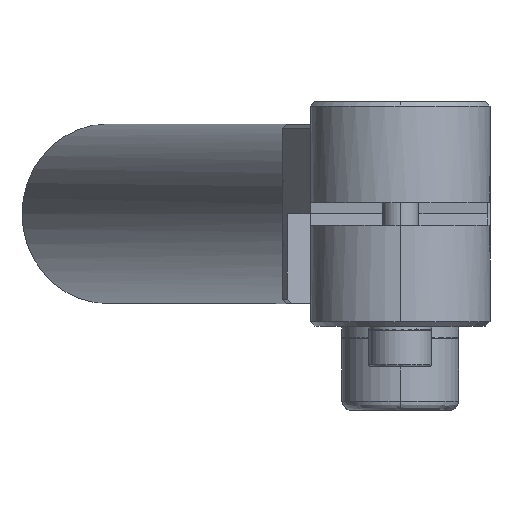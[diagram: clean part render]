
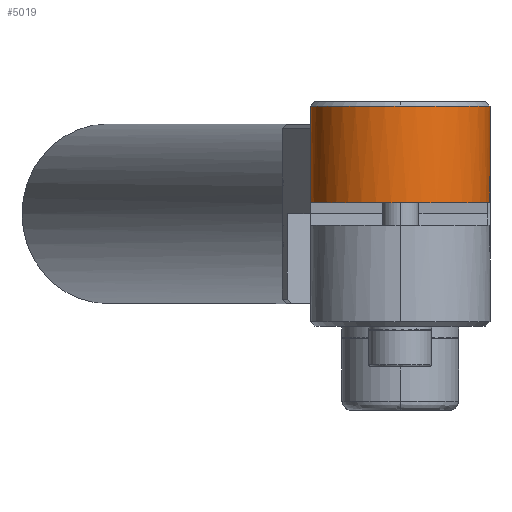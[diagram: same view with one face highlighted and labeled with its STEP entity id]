
A CAD part, left-side view. The second image highlights one B-rep face of the part: STEP entity #5019.
In plain terms, the highlighted cylindrical face has radius 10 mm (diameter 20 mm), a partial arc.
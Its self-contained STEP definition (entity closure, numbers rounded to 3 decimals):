
#706 = ORIENTED_EDGE ( 'NONE', *, *, #26654, .F. ) ;
#779 = CARTESIAN_POINT ( 'NONE',  ( 1.301, 18.461, 0. ) ) ;
#1475 = LINE ( 'NONE', #779, #13405 ) ;
#1863 = CARTESIAN_POINT ( 'NONE',  ( 1.063, 38.461, 3.866 ) ) ;
#2822 = CARTESIAN_POINT ( 'NONE',  ( 0.695, 18.477, 3.822 ) ) ;
#3038 = DIRECTION ( 'NONE',  ( 0., 0., -1. ) ) ;
#3061 = DIRECTION ( 'NONE',  ( 0., 0., 1. ) ) ;
#3308 = EDGE_CURVE ( 'NONE', #12350, #28680, #1475, .T. ) ;
#3827 = EDGE_CURVE ( 'NONE', #4880, #15705, #13525, .T. ) ;
#4060 = VERTEX_POINT ( 'NONE', #9437 ) ;
#4762 = AXIS2_PLACEMENT_3D ( 'NONE', #8072, #23810, #10302 ) ;
#4880 = VERTEX_POINT ( 'NONE', #15504 ) ;
#5019 = ADVANCED_FACE ( 'NONE', ( #7786 ), #22921, .T. ) ;
#5088 = CARTESIAN_POINT ( 'NONE',  ( 0.123, 18.53, 1.911 ) ) ;
#5154 = VECTOR ( 'NONE', #8079, 1000. ) ;
#5165 = CARTESIAN_POINT ( 'NONE',  ( 1.301, 28.461, 12. ) ) ;
#6223 = VERTEX_POINT ( 'NONE', #13953 ) ;
#7438 = DIRECTION ( 'NONE',  ( -1., 0., 0. ) ) ;
#7757 = CIRCLE ( 'NONE', #4762, 10. ) ;
#7786 = FACE_OUTER_BOUND ( 'NONE', #23550, .T. ) ;
#8072 = CARTESIAN_POINT ( 'NONE',  ( 1.301, 28.461, 12. ) ) ;
#8079 = DIRECTION ( 'NONE',  ( 0., 0., 1. ) ) ;
#9437 = CARTESIAN_POINT ( 'NONE',  ( 0.04, 18.541, 1.25 ) ) ;
#10302 = DIRECTION ( 'NONE',  ( -1., 0., 0. ) ) ;
#10831 = ORIENTED_EDGE ( 'NONE', *, *, #21545, .F. ) ;
#10950 = CARTESIAN_POINT ( 'NONE',  ( 1.301, 18.461, 12. ) ) ;
#11249 = EDGE_CURVE ( 'NONE', #4060, #4880, #12181, .T. ) ;
#11717 = EDGE_CURVE ( 'NONE', #22071, #6223, #14236, .T. ) ;
#12181 = CIRCLE ( 'NONE', #19185, 10. ) ;
#12350 = VERTEX_POINT ( 'NONE', #17381 ) ;
#13040 = CARTESIAN_POINT ( 'NONE',  ( 0.56, 38.434, 2.324 ) ) ;
#13405 = VECTOR ( 'NONE', #3061, 1000. ) ;
#13525 = B_SPLINE_CURVE_WITH_KNOTS ( 'NONE', 3,
 ( #26376, #28834, #13040, #15331, #1863, #17614 ),
 .UNSPECIFIED., .F., .F.,
 ( 4, 2, 4 ),
 ( 0., 0.002, 0.003 ),
 .UNSPECIFIED. ) ;
#13953 = CARTESIAN_POINT ( 'NONE',  ( -8.699, 28.461, 12. ) ) ;
#13989 = CARTESIAN_POINT ( 'NONE',  ( 1.301, 18.461, 5.009 ) ) ;
#14236 = CIRCLE ( 'NONE', #14281, 10. ) ;
#14281 = AXIS2_PLACEMENT_3D ( 'NONE', #5165, #20910, #7438 ) ;
#14305 = DIRECTION ( 'NONE',  ( 0., 1., 0. ) ) ;
#14581 = B_SPLINE_CURVE_WITH_KNOTS ( 'NONE', 3,
 ( #13989, #16284, #2822, #18556, #5088, #20841 ),
 .UNSPECIFIED., .F., .F.,
 ( 4, 2, 4 ),
 ( 0., 0.002, 0.004 ),
 .UNSPECIFIED. ) ;
#15331 = CARTESIAN_POINT ( 'NONE',  ( 0.867, 38.453, 3.36 ) ) ;
#15504 = CARTESIAN_POINT ( 'NONE',  ( 0.38, 38.418, 1.25 ) ) ;
#15705 = VERTEX_POINT ( 'NONE', #23756 ) ;
#16284 = CARTESIAN_POINT ( 'NONE',  ( 0.97, 18.461, 4.431 ) ) ;
#16498 = CARTESIAN_POINT ( 'NONE',  ( 1.301, 28.461, 1.25 ) ) ;
#17381 = CARTESIAN_POINT ( 'NONE',  ( 1.301, 18.461, 5.009 ) ) ;
#17614 = CARTESIAN_POINT ( 'NONE',  ( 1.301, 38.461, 4.359 ) ) ;
#17645 = ORIENTED_EDGE ( 'NONE', *, *, #3827, .F. ) ;
#18556 = CARTESIAN_POINT ( 'NONE',  ( 0.272, 18.512, 2.562 ) ) ;
#18767 = DIRECTION ( 'NONE',  ( 0., 1., 0. ) ) ;
#19185 = AXIS2_PLACEMENT_3D ( 'NONE', #16498, #3038, #18767 ) ;
#20268 = EDGE_CURVE ( 'NONE', #12350, #4060, #14581, .T. ) ;
#20841 = CARTESIAN_POINT ( 'NONE',  ( 0.04, 18.541, 1.25 ) ) ;
#20910 = DIRECTION ( 'NONE',  ( 0., 0., 1. ) ) ;
#21447 = CARTESIAN_POINT ( 'NONE',  ( 1.301, 38.461, 6.625 ) ) ;
#21545 = EDGE_CURVE ( 'NONE', #15705, #22071, #23133, .T. ) ;
#22071 = VERTEX_POINT ( 'NONE', #25731 ) ;
#22144 = ORIENTED_EDGE ( 'NONE', *, *, #3308, .T. ) ;
#22916 = CARTESIAN_POINT ( 'NONE',  ( 1.301, 28.461, 12. ) ) ;
#22921 = CYLINDRICAL_SURFACE ( 'NONE', #25020, 10. ) ;
#23133 = LINE ( 'NONE', #21447, #5154 ) ;
#23550 = EDGE_LOOP ( 'NONE', ( #26163, #10831, #17645, #27028, #24590, #22144, #706 ) ) ;
#23756 = CARTESIAN_POINT ( 'NONE',  ( 1.301, 38.461, 4.359 ) ) ;
#23810 = DIRECTION ( 'NONE',  ( 0., 0., 1. ) ) ;
#24590 = ORIENTED_EDGE ( 'NONE', *, *, #20268, .F. ) ;
#25020 = AXIS2_PLACEMENT_3D ( 'NONE', #22916, #27824, #14305 ) ;
#25731 = CARTESIAN_POINT ( 'NONE',  ( 1.301, 38.461, 12. ) ) ;
#26163 = ORIENTED_EDGE ( 'NONE', *, *, #11717, .F. ) ;
#26376 = CARTESIAN_POINT ( 'NONE',  ( 0.38, 38.418, 1.25 ) ) ;
#26654 = EDGE_CURVE ( 'NONE', #6223, #28680, #7757, .T. ) ;
#27028 = ORIENTED_EDGE ( 'NONE', *, *, #11249, .F. ) ;
#27824 = DIRECTION ( 'NONE',  ( 0., 0., -1. ) ) ;
#28680 = VERTEX_POINT ( 'NONE', #10950 ) ;
#28834 = CARTESIAN_POINT ( 'NONE',  ( 0.448, 38.425, 1.793 ) ) ;
